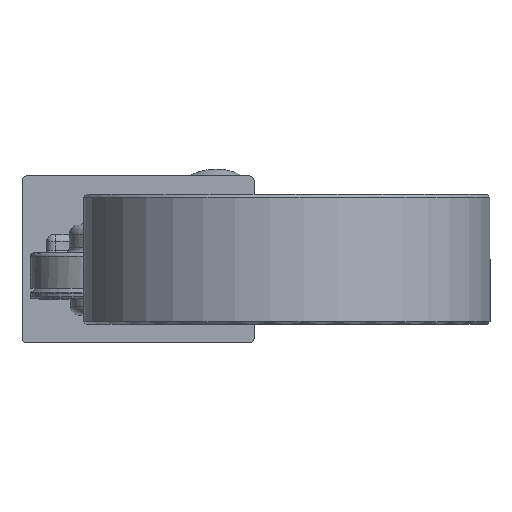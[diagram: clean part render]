
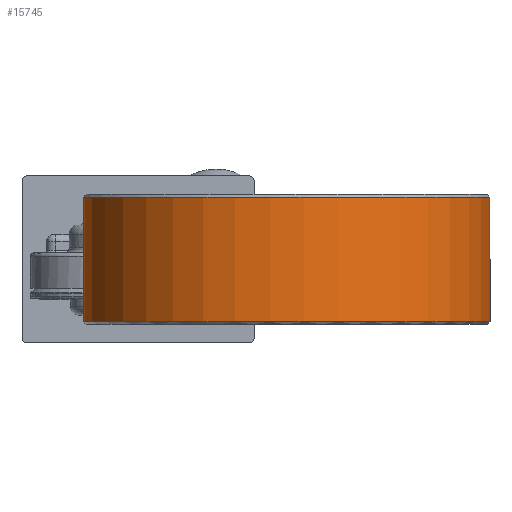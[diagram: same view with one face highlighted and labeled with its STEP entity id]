
A CAD part, left-side view. The second image highlights one B-rep face of the part: STEP entity #15745.
In plain terms, the highlighted cylindrical face has radius 109.5 mm (diameter 219 mm), a partial arc.
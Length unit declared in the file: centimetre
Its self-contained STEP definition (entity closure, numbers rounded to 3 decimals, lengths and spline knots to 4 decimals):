
#2906=VECTOR('',#20067,1.);
#2907=VECTOR('',#20068,1.);
#3907=LINE('',#34127,#2906);
#3908=LINE('',#34141,#2907);
#6146=VERTEX_POINT('',#34112);
#6148=VERTEX_POINT('',#34120);
#6151=VERTEX_POINT('',#34128);
#6153=VERTEX_POINT('',#34140);
#6700=CIRCLE('',#16969,10.95);
#6704=CIRCLE('',#16975,10.95);
#8648=EDGE_CURVE('',#6148,#6146,#6700,.T.);
#8651=EDGE_CURVE('',#6146,#6151,#3907,.T.);
#8654=EDGE_CURVE('',#6148,#6153,#3908,.T.);
#8656=EDGE_CURVE('',#6151,#6153,#6704,.T.);
#12560=ORIENTED_EDGE('',*,*,#8648,.F.);
#12561=ORIENTED_EDGE('',*,*,#8654,.T.);
#12562=ORIENTED_EDGE('',*,*,#8656,.F.);
#12563=ORIENTED_EDGE('',*,*,#8651,.F.);
#13725=EDGE_LOOP('',(#12560,#12561,#12562,#12563));
#14869=FACE_BOUND('',#13725,.T.);
#15745=ADVANCED_FACE('',(#14869),#34449,.T.);
#16969=AXIS2_PLACEMENT_3D('',#34121,#20060,#20061);
#16975=AXIS2_PLACEMENT_3D('',#34144,#20073,#20074);
#16985=AXIS2_PLACEMENT_3D('',#34158,#20091,#20092);
#20060=DIRECTION('',(0.,0.,1.));
#20061=DIRECTION('',(-10.95,0.,0.));
#20067=DIRECTION('',(0.,0.,-1.));
#20068=DIRECTION('',(0.,0.,-1.));
#20073=DIRECTION('',(0.,0.,-1.));
#20074=DIRECTION('',(-10.95,0.,0.));
#20091=DIRECTION('',(0.,0.,-1.));
#20092=DIRECTION('',(-10.95,0.,0.));
#34112=CARTESIAN_POINT('',(-5.519,-8.5756,5.5968));
#34120=CARTESIAN_POINT('',(-5.519,-4.9631,5.5968));
#34121=CARTESIAN_POINT('',(-16.319,-6.7693,5.5968));
#34127=CARTESIAN_POINT('',(-5.519,-8.5756,5.7468));
#34128=CARTESIAN_POINT('',(-5.519,-8.5756,-1.1032));
#34140=CARTESIAN_POINT('',(-5.519,-4.9631,-1.1032));
#34141=CARTESIAN_POINT('',(-5.519,-4.9631,5.7468));
#34144=CARTESIAN_POINT('',(-16.319,-6.7693,-1.1032));
#34158=CARTESIAN_POINT('',(-16.319,-6.7693,5.7468));
#34449=CYLINDRICAL_SURFACE('',#16985,10.95);
